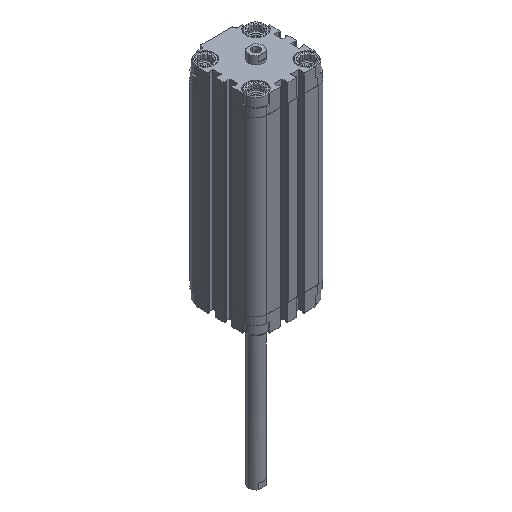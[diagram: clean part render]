
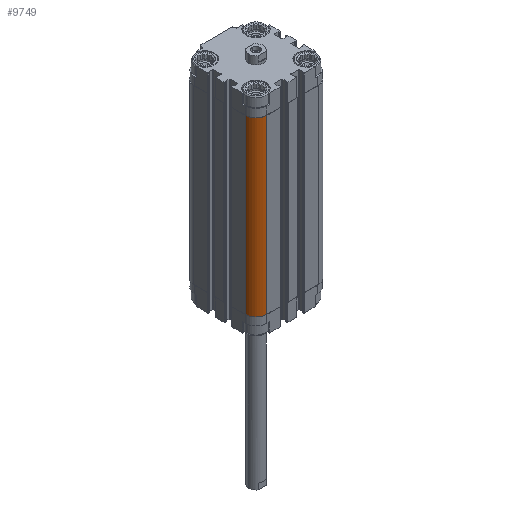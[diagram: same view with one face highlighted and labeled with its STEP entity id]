
A CAD part, isometric view. The second image highlights one B-rep face of the part: STEP entity #9749.
In plain terms, the highlighted cylindrical face has radius 9 mm (diameter 18 mm), a partial arc.
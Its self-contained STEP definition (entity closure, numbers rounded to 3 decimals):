
#48 = CARTESIAN_POINT ( 'NONE',  ( -30., -21., -14.5 ) ) ;
#60 = DIRECTION ( 'NONE',  ( 0., 0., 1. ) ) ;
#904 = CIRCLE ( 'NONE', #19862, 9. ) ;
#1220 = DIRECTION ( 'NONE',  ( -1., 0., 0. ) ) ;
#1274 = CYLINDRICAL_SURFACE ( 'NONE', #16353, 9. ) ;
#3063 = LINE ( 'NONE', #17328, #6073 ) ;
#4356 = EDGE_CURVE ( 'NONE', #7716, #21968, #3063, .T. ) ;
#5203 = CARTESIAN_POINT ( 'NONE',  ( -21., -30., -156. ) ) ;
#6073 = VECTOR ( 'NONE', #15396, 1000. ) ;
#6365 = CARTESIAN_POINT ( 'NONE',  ( -21., -21., -14.5 ) ) ;
#6529 = DIRECTION ( 'NONE',  ( 0., 0., -1. ) ) ;
#7207 = ORIENTED_EDGE ( 'NONE', *, *, #12716, .T. ) ;
#7244 = LINE ( 'NONE', #19359, #16109 ) ;
#7716 = VERTEX_POINT ( 'NONE', #16886 ) ;
#7855 = VERTEX_POINT ( 'NONE', #5203 ) ;
#7916 = ORIENTED_EDGE ( 'NONE', *, *, #4356, .F. ) ;
#8964 = DIRECTION ( 'NONE',  ( 0., 0., 1. ) ) ;
#9071 = DIRECTION ( 'NONE',  ( -1., 0., 0. ) ) ;
#9313 = ORIENTED_EDGE ( 'NONE', *, *, #17714, .T. ) ;
#9643 = AXIS2_PLACEMENT_3D ( 'NONE', #6365, #13340, #1220 ) ;
#9749 = ADVANCED_FACE ( 'NONE', ( #20137 ), #1274, .T. ) ;
#10080 = CARTESIAN_POINT ( 'NONE',  ( -21., -21., -156. ) ) ;
#10334 = CARTESIAN_POINT ( 'NONE',  ( -21., -30., -14.5 ) ) ;
#10966 = EDGE_LOOP ( 'NONE', ( #15753, #7916, #9313, #7207 ) ) ;
#12716 = EDGE_CURVE ( 'NONE', #7855, #20745, #7244, .T. ) ;
#13340 = DIRECTION ( 'NONE',  ( 0., 0., 1. ) ) ;
#14382 = CIRCLE ( 'NONE', #9643, 9. ) ;
#15396 = DIRECTION ( 'NONE',  ( 0., 0., 1. ) ) ;
#15753 = ORIENTED_EDGE ( 'NONE', *, *, #17540, .F. ) ;
#16109 = VECTOR ( 'NONE', #60, 1000. ) ;
#16353 = AXIS2_PLACEMENT_3D ( 'NONE', #10080, #6529, #21853 ) ;
#16886 = CARTESIAN_POINT ( 'NONE',  ( -30., -21., -156. ) ) ;
#17328 = CARTESIAN_POINT ( 'NONE',  ( -30., -21., -156. ) ) ;
#17540 = EDGE_CURVE ( 'NONE', #21968, #20745, #14382, .T. ) ;
#17714 = EDGE_CURVE ( 'NONE', #7716, #7855, #904, .T. ) ;
#19359 = CARTESIAN_POINT ( 'NONE',  ( -21., -30., -156. ) ) ;
#19862 = AXIS2_PLACEMENT_3D ( 'NONE', #21301, #8964, #9071 ) ;
#20137 = FACE_OUTER_BOUND ( 'NONE', #10966, .T. ) ;
#20745 = VERTEX_POINT ( 'NONE', #10334 ) ;
#21301 = CARTESIAN_POINT ( 'NONE',  ( -21., -21., -156. ) ) ;
#21853 = DIRECTION ( 'NONE',  ( -1., 0., 0. ) ) ;
#21968 = VERTEX_POINT ( 'NONE', #48 ) ;
